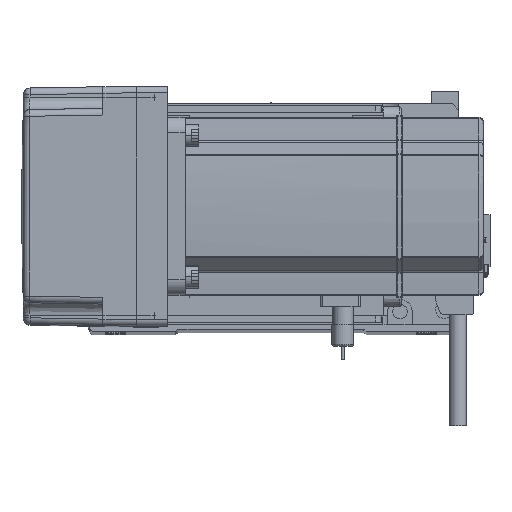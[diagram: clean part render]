
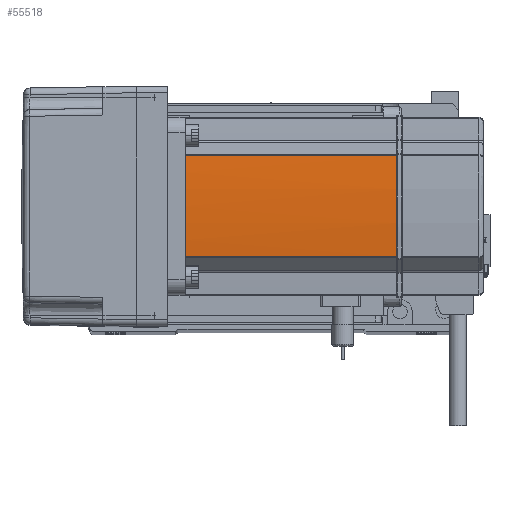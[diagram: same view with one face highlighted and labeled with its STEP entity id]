
A CAD part, top view. The second image highlights one B-rep face of the part: STEP entity #55518.
In plain terms, the highlighted cylindrical face has radius 270 mm (diameter 540 mm), a partial arc.
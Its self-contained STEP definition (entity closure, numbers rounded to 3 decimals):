
#1295 = EDGE_CURVE ( 'NONE', #1550, #8928, #5481, .T. ) ;
#1538 = EDGE_CURVE ( 'NONE', #48125, #22273, #48269, .T. ) ;
#1550 = VERTEX_POINT ( 'NONE', #23410 ) ;
#3566 = AXIS2_PLACEMENT_3D ( 'NONE', #3901, #52925, #39435 ) ;
#3901 = CARTESIAN_POINT ( 'NONE',  ( -230., 0., 134. ) ) ;
#5481 = CIRCLE ( 'NONE', #3566, 270. ) ;
#5518 = DIRECTION ( 'NONE',  ( 0., 0., -1. ) ) ;
#7645 = AXIS2_PLACEMENT_3D ( 'NONE', #19537, #24157, #24715 ) ;
#8056 = ORIENTED_EDGE ( 'NONE', *, *, #40199, .T. ) ;
#8331 = ORIENTED_EDGE ( 'NONE', *, *, #55790, .T. ) ;
#8377 = LINE ( 'NONE', #20435, #18751 ) ;
#8928 = VERTEX_POINT ( 'NONE', #34591 ) ;
#9186 = CARTESIAN_POINT ( 'NONE',  ( 39.042, 22.724, 39. ) ) ;
#10463 = ORIENTED_EDGE ( 'NONE', *, *, #1295, .T. ) ;
#12410 = CARTESIAN_POINT ( 'NONE',  ( 40., 0.127, 134. ) ) ;
#12940 = CARTESIAN_POINT ( 'NONE',  ( 39.042, -22.724, 134. ) ) ;
#14891 = CARTESIAN_POINT ( 'NONE',  ( 40., -0.127, 134. ) ) ;
#15712 = FACE_OUTER_BOUND ( 'NONE', #35070, .T. ) ;
#16685 = AXIS2_PLACEMENT_3D ( 'NONE', #55950, #34500, #20812 ) ;
#17236 = CARTESIAN_POINT ( 'NONE',  ( 40., -0.127, 134. ) ) ;
#17265 = ORIENTED_EDGE ( 'NONE', *, *, #17524, .T. ) ;
#17524 = EDGE_CURVE ( 'NONE', #48125, #1550, #8377, .T. ) ;
#18751 = VECTOR ( 'NONE', #28583, 1000. ) ;
#19295 = VERTEX_POINT ( 'NONE', #14891 ) ;
#19537 = CARTESIAN_POINT ( 'NONE',  ( -230., 0., 39. ) ) ;
#20435 = CARTESIAN_POINT ( 'NONE',  ( 39.042, 22.724, 58. ) ) ;
#20524 = EDGE_CURVE ( 'NONE', #19295, #8928, #24692, .T. ) ;
#20812 = DIRECTION ( 'NONE',  ( -1., 0., 0. ) ) ;
#22273 = VERTEX_POINT ( 'NONE', #56290 ) ;
#23233 = CYLINDRICAL_SURFACE ( 'NONE', #54293, 270. ) ;
#23410 = CARTESIAN_POINT ( 'NONE',  ( 39.042, 22.724, 134. ) ) ;
#24157 = DIRECTION ( 'NONE',  ( 0., 0., -1. ) ) ;
#24692 = B_SPLINE_CURVE_WITH_KNOTS ( 'NONE', 3,
 ( #17236, #56800, #48326, #12410 ),
 .UNSPECIFIED., .F., .F.,
 ( 4, 4 ),
 ( 0., 1. ),
 .UNSPECIFIED. ) ;
#24715 = DIRECTION ( 'NONE',  ( -1., 0., 0. ) ) ;
#28583 = DIRECTION ( 'NONE',  ( 0., 0., 1. ) ) ;
#29005 = CARTESIAN_POINT ( 'NONE',  ( -230., 0., 58. ) ) ;
#32267 = VECTOR ( 'NONE', #5518, 1000. ) ;
#33417 = DIRECTION ( 'NONE',  ( 0., 0., -1. ) ) ;
#34500 = DIRECTION ( 'NONE',  ( 0., 0., -1. ) ) ;
#34591 = CARTESIAN_POINT ( 'NONE',  ( 40., 0.127, 134. ) ) ;
#35070 = EDGE_LOOP ( 'NONE', ( #8331, #37245, #17265, #10463, #56129, #8056 ) ) ;
#37245 = ORIENTED_EDGE ( 'NONE', *, *, #1538, .F. ) ;
#39435 = DIRECTION ( 'NONE',  ( -1., 0., 0. ) ) ;
#40199 = EDGE_CURVE ( 'NONE', #19295, #41690, #53085, .T. ) ;
#41690 = VERTEX_POINT ( 'NONE', #12940 ) ;
#45409 = LINE ( 'NONE', #53772, #32267 ) ;
#48125 = VERTEX_POINT ( 'NONE', #9186 ) ;
#48269 = CIRCLE ( 'NONE', #7645, 270. ) ;
#48326 = CARTESIAN_POINT ( 'NONE',  ( 40., 0.042, 134. ) ) ;
#52925 = DIRECTION ( 'NONE',  ( 0., 0., -1. ) ) ;
#53085 = CIRCLE ( 'NONE', #16685, 270. ) ;
#53772 = CARTESIAN_POINT ( 'NONE',  ( 39.042, -22.724, 58. ) ) ;
#54293 = AXIS2_PLACEMENT_3D ( 'NONE', #29005, #33417, #55806 ) ;
#55518 = ADVANCED_FACE ( 'NONE', ( #15712 ), #23233, .T. ) ;
#55790 = EDGE_CURVE ( 'NONE', #41690, #22273, #45409, .T. ) ;
#55806 = DIRECTION ( 'NONE',  ( -1., 0., 0. ) ) ;
#55950 = CARTESIAN_POINT ( 'NONE',  ( -230., 0., 134. ) ) ;
#56129 = ORIENTED_EDGE ( 'NONE', *, *, #20524, .F. ) ;
#56290 = CARTESIAN_POINT ( 'NONE',  ( 39.042, -22.724, 39. ) ) ;
#56800 = CARTESIAN_POINT ( 'NONE',  ( 40., -0.042, 134. ) ) ;
